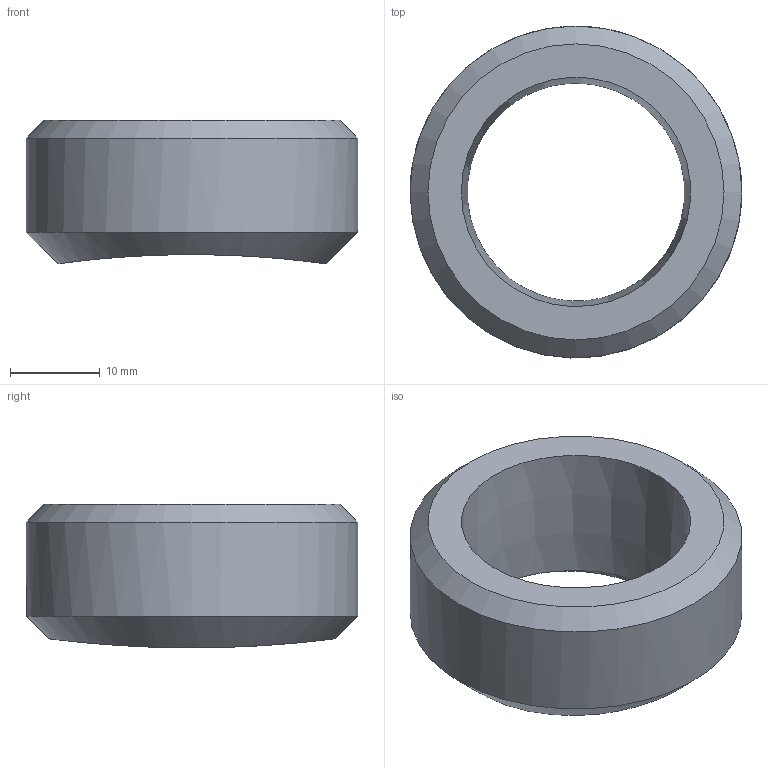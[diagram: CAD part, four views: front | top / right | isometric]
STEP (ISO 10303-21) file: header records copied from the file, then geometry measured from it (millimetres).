
FILE_DESCRIPTION(/* description */ ('Unknown','CAx-IF Rec.Pracs.---Representation and Presentation of Product Manufacturing Information (PMI)---4.0---2014-10-13','CAx-IF Rec.Pracs.---3D Tessellated Geometry---0.4---2014-09-14','2;1'),/* implementation_level */ '2;1');
FILE_NAME(/* name */ '10758_B',/* time_stamp */ '2022-08-30T16:12:23+02:00',/* author */ ('Unknown'),/* organization */ ('Unknown'),/* preprocessor_version */ 'ST-DEVELOPER v18.102',/* originating_system */ 'Solid Edge',/* authorisation */ 'Unknown');
FILE_SCHEMA (('AP242_MANAGED_MODEL_BASED_3D_ENGINEERING_MIM_LF { 1 0 10303 442 1 1 4 }'));
Length unit declared in the file: millimetre
Products named in the file (1): 10758_B
Bounding box: 37 x 37 x 16.02 mm (x, y, z)
Volume: 8377.3 mm3; surface area: 3822.3 mm2
Topology: 1 solids, 1 shells, 8 faces, 17 edges, 11 vertices
Faces by surface type: cylinder 4, cone 3, plane 1
Full cylindrical faces by diameter (mm): 37 x1
Entity records: 294 total; most frequent: CARTESIAN_POINT 76, DIRECTION 30, ORIENTED_EDGE 22, AXIS2_PLACEMENT_3D 15, EDGE_LOOP 14, FACE_BOUND 14, EDGE_CURVE 11, VERTEX_POINT 9
